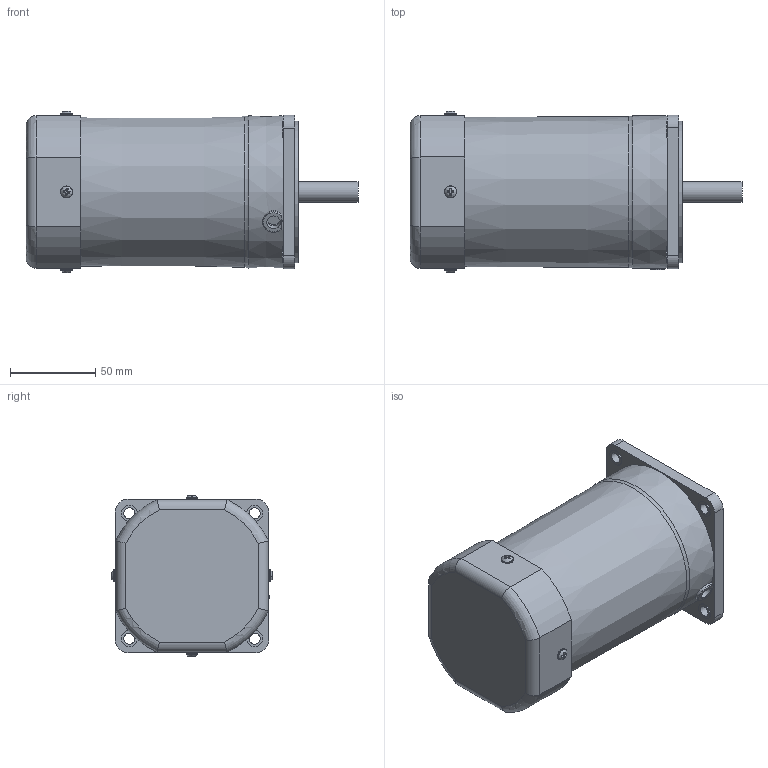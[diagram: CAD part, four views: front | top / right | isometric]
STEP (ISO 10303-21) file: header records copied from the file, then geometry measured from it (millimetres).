
FILE_DESCRIPTION((''),'2;1');
FILE_NAME('D:\STP파일\180W MOTOR\S9I180S.stp','2013-05-20T18:53:33',('leebh'),(''),'Autodesk Inventor 2011','Autodesk Inventor 2011','');
FILE_SCHEMA(('AUTOMOTIVE_DESIGN { 1 0 10303 214 1 1 1 1 }'));
Length unit declared in the file: millimetre
Products named in the file (1): S9I90G-T1
Bounding box: 194.8 x 94.79 x 94.75 mm (x, y, z)
Volume: 1006268.4 mm3; surface area: 67642.3 mm2
Topology: 1 solids, 4 shells, 172 faces, 424 edges, 276 vertices
Faces by surface type: plane 103, cylinder 45, torus 14, cone 6, bspline 4
Full cylindrical faces by diameter (mm): 4 x4, 6.5 x4, 7 x4, 8 x1, 9.5 x4, 10 x1, 12 x1, 40 x1, 83 x1
Entity records: 5301 total; most frequent: CARTESIAN_POINT 1389, DIRECTION 752, ORIENTED_EDGE 738, EDGE_CURVE 369, AXIS2_PLACEMENT_3D 275, VERTEX_POINT 262, EDGE_LOOP 243, VECTOR 202
